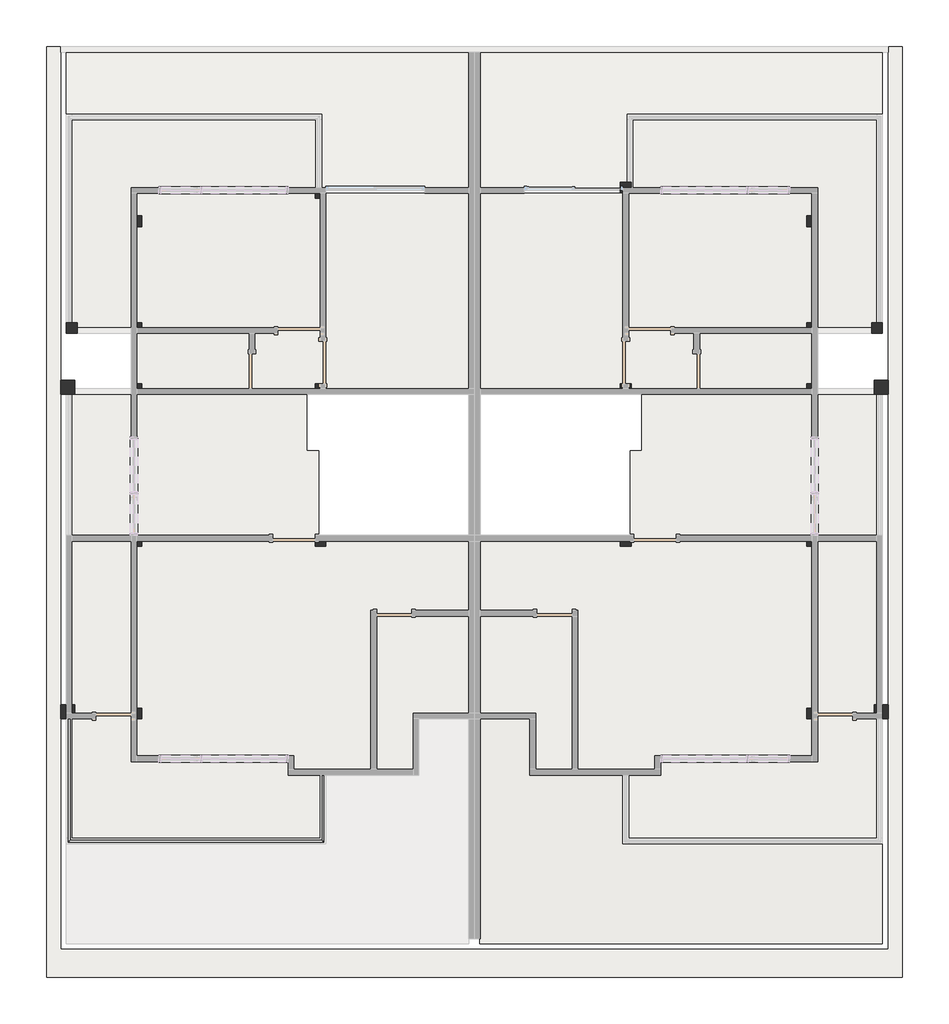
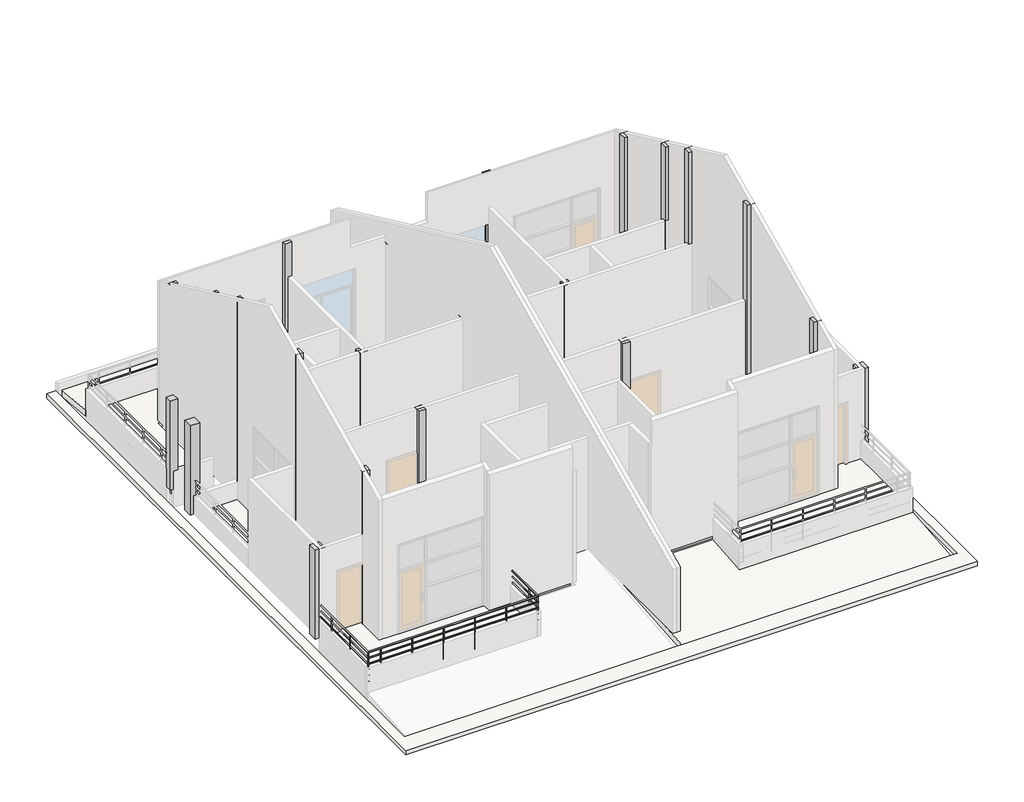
# One storey, part 3 of 6: 26 columns, 5 slabs, 3 roofs, 1 railing.
"""IFC4 building model written with IfcOpenShell, lengths in millimetres."""

from ifc_helpers import new_model, si_unit, point, frame, frame_2d, origin, place, context, project, spatial, polyline, circle_curve, ellipse_curve, trimmed, segment, composite_curve, outline, extrude, faceted_brep, element, save
from ifc_brep_helpers import plane_surface, cylinder_surface, advanced_brep

model = new_model("IFC4")

# Units and contexts
model_context = context("Model", 3, world=origin())
ifc_project = project(units=[si_unit("LENGTHUNIT", "METRE", prefix="MILLI")], contexts=[model_context])

# Site, building, storey
site = spatial("IfcSite", under=ifc_project)
building = spatial("IfcBuilding", under=site)
storey = spatial("IfcBuildingStorey", under=building, Name="标高 2", Elevation=3900.0)

# Columns
placement = place(None, origin())
element("IfcColumn", 1, ObjectType="混凝土 - 矩形 - 柱 : Z1", at=placement, inside=storey, context=model_context, shape_type="SweptSolid", body=[
    extrude(outline(polyline([(-7645.3991115, -28.5593818), (-7645.3991115, -328.5593818), (-7945.3991115, -328.5593818), (-7945.3991115, -28.5593818), (-7645.3991115, -28.5593818)])), frame((0.0, 0.0, 3900.0), z_axis=(0.0, 0.0, 1.0), x_axis=(1.0, 0.0, 0.0)), (0.0, 0.0, 1.0), 3000.0),
])
element("IfcColumn", 2, ObjectType="混凝土 - 矩形 - 柱 : Z1", at=placement, inside=storey, context=model_context, shape_type="SweptSolid", body=[
    extrude(outline(polyline([(-7645.3991115, 6871.4406182), (-7645.3991115, 6571.4406182), (-7945.3991115, 6571.4406182), (-7945.3991115, 6871.4406182), (-7645.3991115, 6871.4406182)])), frame((0.0, 0.0, 3900.0), z_axis=(0.0, 0.0, 1.0), x_axis=(1.0, 0.0, 0.0)), (0.0, 0.0, 1.0), 3000.0),
])
element("IfcColumn", 3, ObjectType="混凝土 - 矩形 - 柱 : Z1", at=placement, inside=storey, context=model_context, shape_type="SweptSolid", body=[
    extrude(outline(polyline([(9354.6008885, -28.5593818), (9654.6008885, -28.5593818), (9654.6008885, -328.5593818), (9354.6008885, -328.5593818), (9354.6008885, -28.5593818)])), frame((0.0, 0.0, 3900.0), z_axis=(0.0, 0.0, 1.0), x_axis=(1.0, 0.0, 0.0)), (0.0, 0.0, 1.0), 3000.0),
])
element("IfcColumn", 4, ObjectType="混凝土 - 矩形 - 柱 : Z1", at=placement, inside=storey, context=model_context, shape_type="SweptSolid", body=[
    extrude(outline(polyline([(9354.6008885, 6871.4406182), (9654.6008885, 6871.4406182), (9654.6008885, 6571.4406182), (9354.6008885, 6571.4406182), (9354.6008885, 6871.4406182)])), frame((0.0, 0.0, 3900.0), z_axis=(0.0, 0.0, 1.0), x_axis=(1.0, 0.0, 0.0)), (0.0, 0.0, 1.0), 3000.0),
])
element("IfcColumn", 5, ObjectType="混凝土 - 矩形 - 柱 : Z2", at=placement, inside=storey, context=model_context, shape_type="SweptSolid", body=[
    extrude(outline(polyline([(-6215.3991115, -98.5593818), (-6215.3991115, -328.5593818), (-6445.3991115, -328.5593818), (-6445.3991115, -98.5593818), (-6215.3991115, -98.5593818)])), frame((0.0, 0.0, 3900.0), z_axis=(0.0, 0.0, 1.0), x_axis=(1.0, 0.0, 0.0)), (0.0, 0.0, 1.0), 5108.8623857),
])
element("IfcColumn", 6, ObjectType="混凝土 - 矩形 - 柱 : Z2", at=placement, inside=storey, context=model_context, shape_type="SweptSolid", body=[
    extrude(outline(polyline([(-6215.3991115, 3571.4406182), (-6215.3991115, 3341.4406182), (-6445.3991115, 3341.4406182), (-6445.3991115, 3571.4406182), (-6215.3991115, 3571.4406182)])), frame((0.0, 0.0, 3900.0), z_axis=(0.0, 0.0, 1.0), x_axis=(1.0, 0.0, 0.0)), (0.0, 0.0, 1.0), 6820.2114911),
])
element("IfcColumn", 7, ObjectType="混凝土 - 矩形 - 柱 : Z2", at=placement, inside=storey, context=model_context, shape_type="SweptSolid", body=[
    extrude(outline(polyline([(-6215.3991115, 8101.4406182), (-6215.3991115, 7871.4406182), (-6445.3991115, 7871.4406182), (-6445.3991115, 8101.4406182), (-6215.3991115, 8101.4406182)])), frame((0.0, 0.0, 3900.0), z_axis=(0.0, 0.0, 1.0), x_axis=(1.0, 0.0, 0.0)), (0.0, 0.0, 1.0), 6027.4884723),
])
element("IfcColumn", 8, ObjectType="混凝土 - 矩形 - 柱 : Z2", at=placement, inside=storey, context=model_context, shape_type="SweptSolid", body=[
    extrude(outline(polyline([(-6215.3991115, 10371.4406182), (-6215.3991115, 10141.4406182), (-6445.3991115, 10141.4406182), (-6445.3991115, 10371.4406182), (-6215.3991115, 10371.4406182)])), frame((0.0, 0.0, 3900.0), z_axis=(0.0, 0.0, 1.0), x_axis=(1.0, 0.0, 0.0)), (0.0, 0.0, 1.0), 4968.9700883),
])
element("IfcColumn", 9, ObjectType="混凝土 - 矩形 - 柱 : Z2", at=placement, inside=storey, context=model_context, shape_type="SweptSolid", body=[
    extrude(outline(polyline([(-2305.3991115, 3571.4406182), (-2305.3991115, 3341.4406182), (-2535.3991115, 3341.4406182), (-2535.3991115, 3571.4406182), (-2305.3991115, 3571.4406182)])), frame((0.0, 0.0, 3900.0), z_axis=(0.0, 0.0, 1.0), x_axis=(1.0, 0.0, 0.0)), (0.0, 0.0, 1.0), 3550.0),
])
element("IfcColumn", 10, ObjectType="混凝土 - 矩形 - 柱 : Z2", at=placement, inside=storey, context=model_context, shape_type="SweptSolid", body=[
    extrude(outline(polyline([(-2305.3991115, 6801.4406182), (-2305.3991115, 6571.4406182), (-2535.3991115, 6571.4406182), (-2535.3991115, 6801.4406182), (-2305.3991115, 6801.4406182)])), frame((0.0, 0.0, 3900.0), z_axis=(0.0, 0.0, 1.0), x_axis=(1.0, 0.0, 0.0)), (0.0, 0.0, 1.0), 3550.0),
])
element("IfcColumn", 11, ObjectType="混凝土 - 矩形 - 柱 : Z2", at=placement, inside=storey, context=model_context, shape_type="SweptSolid", body=[
    extrude(outline(polyline([(-2305.3991115, 10971.4406182), (-2305.3991115, 10741.4406182), (-2535.3991115, 10741.4406182), (-2535.3991115, 10971.4406182), (-2305.3991115, 10971.4406182)])), frame((0.0, 0.0, 3900.0), z_axis=(0.0, 0.0, 1.0), x_axis=(1.0, 0.0, 0.0)), (0.0, 0.0, 1.0), 4689.1854934),
])
element("IfcColumn", 12, ObjectType="混凝土 - 矩形 - 柱 : Z2", at=placement, inside=storey, context=model_context, shape_type="SweptSolid", body=[
    extrude(outline(polyline([(969.6008885, -213.5593818), (969.6008885, -443.5593818), (739.6008885, -443.5593818), (739.6008885, -213.5593818), (969.6008885, -213.5593818)])), frame((0.0, 0.0, 3900.0), z_axis=(0.0, 0.0, 1.0), x_axis=(1.0, 0.0, 0.0)), (0.0, 0.0, 1.0), 3750.0),
])
element("IfcColumn", 13, ObjectType="混凝土 - 矩形 - 柱 : Z2", at=placement, inside=storey, context=model_context, shape_type="SweptSolid", body=[
    extrude(outline(polyline([(969.6008885, 3571.4406182), (969.6008885, 3341.4406182), (739.6008885, 3341.4406182), (739.6008885, 3571.4406182), (969.6008885, 3571.4406182)])), frame((0.0, 0.0, 3900.0), z_axis=(0.0, 0.0, 1.0), x_axis=(1.0, 0.0, 0.0)), (0.0, 0.0, 1.0), 3550.0),
])
element("IfcColumn", 14, ObjectType="混凝土 - 矩形 - 柱 : Z2", at=placement, inside=storey, context=model_context, shape_type="SweptSolid", body=[
    extrude(outline(polyline([(969.6008885, 6801.4406182), (969.6008885, 6571.4406182), (739.6008885, 6571.4406182), (739.6008885, 6801.4406182), (969.6008885, 6801.4406182)])), frame((0.0, 0.0, 3900.0), z_axis=(0.0, 0.0, 1.0), x_axis=(1.0, 0.0, 0.0)), (0.0, 0.0, 1.0), 3550.0),
])
element("IfcColumn", 15, ObjectType="混凝土 - 矩形 - 柱 : Z2", at=placement, inside=storey, context=model_context, shape_type="SweptSolid", body=[
    extrude(outline(polyline([(969.6008885, 10971.4406182), (969.6008885, 10741.4406182), (739.6008885, 10741.4406182), (739.6008885, 10971.4406182), (969.6008885, 10971.4406182)])), frame((0.0, 0.0, 3900.0), z_axis=(0.0, 0.0, 1.0), x_axis=(1.0, 0.0, 0.0)), (0.0, 0.0, 1.0), 3550.0),
])
element("IfcColumn", 16, ObjectType="混凝土 - 矩形 - 柱 : Z2", at=placement, inside=storey, context=model_context, shape_type="SweptSolid", body=[
    extrude(outline(polyline([(7924.6008885, -98.5593818), (8154.6008885, -98.5593818), (8154.6008885, -328.5593818), (7924.6008885, -328.5593818), (7924.6008885, -98.5593818)])), frame((0.0, 0.0, 3900.0), z_axis=(0.0, 0.0, 1.0), x_axis=(1.0, 0.0, 0.0)), (0.0, 0.0, 1.0), 5108.8623857),
])
element("IfcColumn", 17, ObjectType="混凝土 - 矩形 - 柱 : Z2", at=placement, inside=storey, context=model_context, shape_type="SweptSolid", body=[
    extrude(outline(polyline([(7924.6008885, 3571.4406182), (8154.6008885, 3571.4406182), (8154.6008885, 3341.4406182), (7924.6008885, 3341.4406182), (7924.6008885, 3571.4406182)])), frame((0.0, 0.0, 3900.0), z_axis=(0.0, 0.0, 1.0), x_axis=(1.0, 0.0, 0.0)), (0.0, 0.0, 1.0), 6820.2114911),
])
element("IfcColumn", 18, ObjectType="混凝土 - 矩形 - 柱 : Z2", at=placement, inside=storey, context=model_context, shape_type="SweptSolid", body=[
    extrude(outline(polyline([(7924.6008885, 6801.4406182), (8154.6008885, 6801.4406182), (8154.6008885, 6571.4406182), (7924.6008885, 6571.4406182), (7924.6008885, 6801.4406182)])), frame((0.0, 0.0, 3900.0), z_axis=(0.0, 0.0, 1.0), x_axis=(1.0, 0.0, 0.0)), (0.0, 0.0, 1.0), 6633.6884279),
])
element("IfcColumn", 19, ObjectType="混凝土 - 矩形 - 柱 : Z2", at=placement, inside=storey, context=model_context, shape_type="SweptSolid", body=[
    extrude(outline(polyline([(7924.6008885, 10371.4406182), (8154.6008885, 10371.4406182), (8154.6008885, 10141.4406182), (7924.6008885, 10141.4406182), (7924.6008885, 10371.4406182)])), frame((0.0, 0.0, 3900.0), z_axis=(0.0, 0.0, 1.0), x_axis=(1.0, 0.0, 0.0)), (0.0, 0.0, 1.0), 4968.9700883),
])
element("IfcColumn", 20, ObjectType="混凝土 - 矩形 - 柱 : Z2", at=placement, inside=storey, context=model_context, shape_type="SweptSolid", body=[
    extrude(outline(polyline([(3959.6008885, 3571.4406182), (4189.6008885, 3571.4406182), (4189.6008885, 3341.4406182), (3959.6008885, 3341.4406182), (3959.6008885, 3571.4406182)])), frame((0.0, 0.0, 3900.0), z_axis=(0.0, 0.0, 1.0), x_axis=(1.0, 0.0, 0.0)), (0.0, 0.0, 1.0), 3550.0),
])
element("IfcColumn", 21, ObjectType="混凝土 - 矩形 - 柱 : Z2", at=placement, inside=storey, context=model_context, shape_type="SweptSolid", body=[
    extrude(outline(polyline([(3959.6008885, 6801.4406182), (4189.6008885, 6801.4406182), (4189.6008885, 6571.4406182), (3959.6008885, 6571.4406182), (3959.6008885, 6801.4406182)])), frame((0.0, 0.0, 3900.0), z_axis=(0.0, 0.0, 1.0), x_axis=(1.0, 0.0, 0.0)), (0.0, 0.0, 1.0), 3550.0),
])
element("IfcColumn", 22, ObjectType="混凝土 - 矩形 - 柱 : Z2", at=placement, inside=storey, context=model_context, shape_type="SweptSolid", body=[
    extrude(outline(polyline([(3959.6008885, 11086.4406182), (4189.6008885, 11086.4406182), (4189.6008885, 10856.4406182), (3959.6008885, 10856.4406182), (3959.6008885, 11086.4406182)])), frame((0.0, 0.0, 3900.0), z_axis=(0.0, 0.0, 1.0), x_axis=(1.0, 0.0, 0.0)), (0.0, 0.0, 1.0), 4635.5601127),
])
element("IfcColumn", 23, ObjectType="混凝土 - 矩形 - 柱 : Z2", at=placement, inside=storey, context=model_context, shape_type="SweptSolid", body=[
    extrude(outline(polyline([(-7595.3991115, 8101.4406182), (-7595.3991115, 7871.4406182), (-7825.3991115, 7871.4406182), (-7825.3991115, 8101.4406182), (-7595.3991115, 8101.4406182)])), frame((0.0, 0.0, 3900.0), z_axis=(0.0, 0.0, 1.0), x_axis=(1.0, 0.0, 0.0)), (0.0, 0.0, 1.0), 3000.0),
])
element("IfcColumn", 24, ObjectType="混凝土 - 矩形 - 柱 : Z2", at=placement, inside=storey, context=model_context, shape_type="SweptSolid", body=[
    extrude(outline(polyline([(-6215.3991115, 6801.4406182), (-6215.3991115, 6571.4406182), (-6445.3991115, 6571.4406182), (-6445.3991115, 6801.4406182), (-6215.3991115, 6801.4406182)])), frame((0.0, 0.0, 3900.0), z_axis=(0.0, 0.0, 1.0), x_axis=(1.0, 0.0, 0.0)), (0.0, 0.0, 1.0), 6633.6884279),
])
element("IfcColumn", 25, ObjectType="混凝土 - 矩形 - 柱 : Z2", at=placement, inside=storey, context=model_context, shape_type="SweptSolid", body=[
    extrude(outline(polyline([(7924.6008885, 8101.4406182), (8154.6008885, 8101.4406182), (8154.6008885, 7871.4406182), (7924.6008885, 7871.4406182), (7924.6008885, 8101.4406182)])), frame((0.0, 0.0, 3900.0), z_axis=(0.0, 0.0, 1.0), x_axis=(1.0, 0.0, 0.0)), (0.0, 0.0, 1.0), 6027.4884723),
])
element("IfcColumn", 26, ObjectType="混凝土 - 矩形 - 柱 : Z2", at=placement, inside=storey, context=model_context, shape_type="SweptSolid", body=[
    extrude(outline(polyline([(9304.6008885, 8101.4406182), (9534.6008885, 8101.4406182), (9534.6008885, 7871.4406182), (9304.6008885, 7871.4406182), (9304.6008885, 8101.4406182)])), frame((0.0, 0.0, 3900.0), z_axis=(0.0, 0.0, 1.0), x_axis=(1.0, 0.0, 0.0)), (0.0, 0.0, 1.0), 3000.0),
])

# Railing
element("IfcRailing", 27, ObjectType="1100mm 圆管", at=placement, inside=storey, context=model_context, shape_type="SolidModel", body=[
    advanced_brep(
    [(-2385.3991115, -1463.5593818, 4980.0), (-2345.3991115, -1463.5593818, 4980.0), (-2385.3991115, -2908.5593818, 4980.0), (-2345.3991115, -2948.5593818, 4980.0), (-7745.3991115, -2908.5593818, 4980.0), (-7785.3991115, -2948.5593818, 4980.0), (-7745.3991115, -268.5593818, 4980.0), (-7785.3991115, -268.5593818, 4980.0)],
    [
        (0, 1, circle_curve(frame((-2365.3991115, -1463.5593818, 4980.0), z_axis=(0.0, 1.0, 0.0), x_axis=(1.0, 0.0, 0.0)), 20.0)),
        (1, 0, circle_curve(frame((-2365.3991115, -1463.5593818, 4980.0), z_axis=(0.0, 1.0, 0.0), x_axis=(1.0, 0.0, 0.0)), 20.0)),
        (0, 2),
        (2, 3, ellipse_curve(frame((-2365.3991115, -2928.5593818, 4980.0), z_axis=(0.7071067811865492, 0.7071067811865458, 0.0), x_axis=(-0.7071067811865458, 0.7071067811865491, 0.0)), 28.2842712, 20.0)),
        (3, 1),
        (3, 2, ellipse_curve(frame((-2365.3991115, -2928.5593818, 4980.0), z_axis=(0.7071067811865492, 0.7071067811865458, 0.0), x_axis=(-0.7071067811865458, 0.7071067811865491, 0.0)), 28.2842712, 20.0)),
        (2, 4),
        (4, 5, ellipse_curve(frame((-7765.3991115, -2928.5593818, 4980.0), z_axis=(0.7071067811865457, -0.7071067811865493, 0.0), x_axis=(0.7071067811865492, 0.7071067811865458, 0.0)), 28.2842712, 20.0)),
        (5, 3),
        (5, 4, ellipse_curve(frame((-7765.3991115, -2928.5593818, 4980.0), z_axis=(0.7071067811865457, -0.7071067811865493, 0.0), x_axis=(0.7071067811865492, 0.7071067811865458, 0.0)), 28.2842712, 20.0)),
        (6, 7, circle_curve(frame((-7765.3991115, -268.5593818, 4980.0), z_axis=(0.0, 1.0, 0.0), x_axis=(-1.0, 0.0, 0.0)), 20.0)),
        (7, 6, circle_curve(frame((-7765.3991115, -268.5593818, 4980.0), z_axis=(0.0, 1.0, 0.0), x_axis=(-1.0, 0.0, 0.0)), 20.0)),
        (4, 6),
        (7, 5),
    ],
    [
        plane_surface(frame((-2365.3991115, -1463.5593818, 5000.0), z_axis=(0.0, 1.0, 0.0), x_axis=(0.0, 0.0, -1.0))),
        cylinder_surface(frame((-2365.3991115, -1463.5593818, 4980.0), z_axis=(0.0, 1.0, 0.0), x_axis=(1.0, 0.0, 0.0)), 20.0),
        cylinder_surface(frame((-2365.3991115, -2928.5593818, 4980.0), z_axis=(1.0, 0.0, 0.0), x_axis=(0.0, -1.0, 0.0)), 20.0),
        plane_surface(frame((-7765.3991115, -268.5593818, 5000.0), z_axis=(0.0, 1.0, 0.0), x_axis=(0.0, 0.0, 1.0))),
        cylinder_surface(frame((-7765.3991115, -2928.5593818, 4980.0), z_axis=(0.0, -1.0, 0.0), x_axis=(-1.0, 0.0, 0.0)), 20.0),
    ],
    [
        (0, [[1, 2]]),
        (1, [[-1, 3, 4, 5]]),
        (1, [[-2, -5, 6, -3]]),
        (2, [[-4, 7, 8, 9]]),
        (2, [[-6, -9, 10, -7]]),
        (3, [[11, 12]]),
        (4, [[-8, 13, -12, 14]]),
        (4, [[-10, -14, -11, -13]]),
    ],
),
    advanced_brep(
    [(-2350.3991115, -1463.5593818, 4785.0), (-2380.3991115, -1463.5593818, 4785.0), (-2350.3991115, -2943.5593818, 4785.0), (-2380.3991115, -2913.5593818, 4785.0), (-7780.3991115, -2943.5593818, 4785.0), (-7750.3991115, -2913.5593818, 4785.0), (-7780.3991115, -268.5593818, 4785.0), (-7750.3991115, -268.5593818, 4785.0)],
    [
        (0, 1, circle_curve(frame((-2365.3991115, -1463.5593818, 4785.0), z_axis=(0.0, 1.0, 0.0), x_axis=(-1.0, 0.0, 0.0)), 15.0)),
        (1, 0, circle_curve(frame((-2365.3991115, -1463.5593818, 4785.0), z_axis=(0.0, 1.0, 0.0), x_axis=(-1.0, 0.0, 0.0)), 15.0)),
        (0, 2),
        (2, 3, ellipse_curve(frame((-2365.3991115, -2928.5593818, 4785.0), z_axis=(0.7071067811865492, 0.7071067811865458, 0.0), x_axis=(-0.7071067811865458, 0.7071067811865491, 0.0)), 21.2132034, 15.0)),
        (3, 1),
        (3, 2, ellipse_curve(frame((-2365.3991115, -2928.5593818, 4785.0), z_axis=(0.7071067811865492, 0.7071067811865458, 0.0), x_axis=(-0.7071067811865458, 0.7071067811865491, 0.0)), 21.2132034, 15.0)),
        (2, 4),
        (4, 5, ellipse_curve(frame((-7765.3991115, -2928.5593818, 4785.0), z_axis=(0.7071067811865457, -0.7071067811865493, 0.0), x_axis=(0.7071067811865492, 0.7071067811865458, 0.0)), 21.2132034, 15.0)),
        (5, 3),
        (5, 4, ellipse_curve(frame((-7765.3991115, -2928.5593818, 4785.0), z_axis=(0.7071067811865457, -0.7071067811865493, 0.0), x_axis=(0.7071067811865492, 0.7071067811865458, 0.0)), 21.2132034, 15.0)),
        (6, 7, circle_curve(frame((-7765.3991115, -268.5593818, 4785.0), z_axis=(0.0, 1.0, 0.0), x_axis=(1.0, 0.0, 0.0)), 15.0)),
        (7, 6, circle_curve(frame((-7765.3991115, -268.5593818, 4785.0), z_axis=(0.0, 1.0, 0.0), x_axis=(1.0, 0.0, 0.0)), 15.0)),
        (4, 6),
        (7, 5),
    ],
    [
        plane_surface(frame((-2365.3991115, -1463.5593818, 4800.0), z_axis=(0.0, 1.0, 0.0), x_axis=(0.0, 0.0, -1.0))),
        cylinder_surface(frame((-2365.3991115, -1463.5593818, 4785.0), z_axis=(0.0, 1.0, 0.0), x_axis=(-1.0, 0.0, 0.0)), 15.0),
        cylinder_surface(frame((-2365.3991115, -2928.5593818, 4785.0), z_axis=(1.0, 0.0, 0.0), x_axis=(0.0, 1.0, 0.0)), 15.0),
        plane_surface(frame((-7765.3991115, -268.5593818, 4800.0), z_axis=(0.0, 1.0, 0.0), x_axis=(0.0, 0.0, 1.0))),
        cylinder_surface(frame((-7765.3991115, -2928.5593818, 4785.0), z_axis=(0.0, -1.0, 0.0), x_axis=(1.0, 0.0, 0.0)), 15.0),
    ],
    [
        (0, [[1, 2]]),
        (1, [[-1, 3, 4, 5]]),
        (1, [[-2, -5, 6, -3]]),
        (2, [[-4, 7, 8, 9]]),
        (2, [[-6, -9, 10, -7]]),
        (3, [[11, 12]]),
        (4, [[-8, 13, -12, 14]]),
        (4, [[-10, -14, -11, -13]]),
    ],
),
    advanced_brep(
    [(-2350.3991115, -1463.5593818, 4585.0), (-2380.3991115, -1463.5593818, 4585.0), (-2350.3991115, -2943.5593818, 4585.0), (-2380.3991115, -2913.5593818, 4585.0), (-7780.3991115, -2943.5593818, 4585.0), (-7750.3991115, -2913.5593818, 4585.0), (-7780.3991115, -268.5593818, 4585.0), (-7750.3991115, -268.5593818, 4585.0)],
    [
        (0, 1, circle_curve(frame((-2365.3991115, -1463.5593818, 4585.0), z_axis=(0.0, 1.0, 0.0), x_axis=(-1.0, 0.0, 0.0)), 15.0)),
        (1, 0, circle_curve(frame((-2365.3991115, -1463.5593818, 4585.0), z_axis=(0.0, 1.0, 0.0), x_axis=(-1.0, 0.0, 0.0)), 15.0)),
        (0, 2),
        (2, 3, ellipse_curve(frame((-2365.3991115, -2928.5593818, 4585.0), z_axis=(0.7071067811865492, 0.7071067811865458, 0.0), x_axis=(-0.7071067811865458, 0.7071067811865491, 0.0)), 21.2132034, 15.0)),
        (3, 1),
        (3, 2, ellipse_curve(frame((-2365.3991115, -2928.5593818, 4585.0), z_axis=(0.7071067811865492, 0.7071067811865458, 0.0), x_axis=(-0.7071067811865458, 0.7071067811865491, 0.0)), 21.2132034, 15.0)),
        (2, 4),
        (4, 5, ellipse_curve(frame((-7765.3991115, -2928.5593818, 4585.0), z_axis=(0.7071067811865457, -0.7071067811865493, 0.0), x_axis=(0.7071067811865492, 0.7071067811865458, 0.0)), 21.2132034, 15.0)),
        (5, 3),
        (5, 4, ellipse_curve(frame((-7765.3991115, -2928.5593818, 4585.0), z_axis=(0.7071067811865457, -0.7071067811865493, 0.0), x_axis=(0.7071067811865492, 0.7071067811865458, 0.0)), 21.2132034, 15.0)),
        (6, 7, circle_curve(frame((-7765.3991115, -268.5593818, 4585.0), z_axis=(0.0, 1.0, 0.0), x_axis=(1.0, 0.0, 0.0)), 15.0)),
        (7, 6, circle_curve(frame((-7765.3991115, -268.5593818, 4585.0), z_axis=(0.0, 1.0, 0.0), x_axis=(1.0, 0.0, 0.0)), 15.0)),
        (4, 6),
        (7, 5),
    ],
    [
        plane_surface(frame((-2365.3991115, -1463.5593818, 4600.0), z_axis=(0.0, 1.0, 0.0), x_axis=(0.0, 0.0, -1.0))),
        cylinder_surface(frame((-2365.3991115, -1463.5593818, 4585.0), z_axis=(0.0, 1.0, 0.0), x_axis=(-1.0, 0.0, 0.0)), 15.0),
        cylinder_surface(frame((-2365.3991115, -2928.5593818, 4585.0), z_axis=(1.0, 0.0, 0.0), x_axis=(0.0, 1.0, 0.0)), 15.0),
        plane_surface(frame((-7765.3991115, -268.5593818, 4600.0), z_axis=(0.0, 1.0, 0.0), x_axis=(0.0, 0.0, 1.0))),
        cylinder_surface(frame((-7765.3991115, -2928.5593818, 4585.0), z_axis=(0.0, -1.0, 0.0), x_axis=(1.0, 0.0, 0.0)), 15.0),
    ],
    [
        (0, [[1, 2]]),
        (1, [[-1, 3, 4, 5]]),
        (1, [[-2, -5, 6, -3]]),
        (2, [[-4, 7, 8, 9]]),
        (2, [[-6, -9, 10, -7]]),
        (3, [[11, 12]]),
        (4, [[-8, 13, -12, 14]]),
        (4, [[-10, -14, -11, -13]]),
    ],
),
    advanced_brep(
    [(-2350.3991115, -1463.5593818, 4385.0), (-2380.3991115, -1463.5593818, 4385.0), (-2350.3991115, -2943.5593818, 4385.0), (-2380.3991115, -2913.5593818, 4385.0), (-7780.3991115, -2943.5593818, 4385.0), (-7750.3991115, -2913.5593818, 4385.0), (-7780.3991115, -268.5593818, 4385.0), (-7750.3991115, -268.5593818, 4385.0)],
    [
        (0, 1, circle_curve(frame((-2365.3991115, -1463.5593818, 4385.0), z_axis=(0.0, 1.0, 0.0), x_axis=(-1.0, 0.0, 0.0)), 15.0)),
        (1, 0, circle_curve(frame((-2365.3991115, -1463.5593818, 4385.0), z_axis=(0.0, 1.0, 0.0), x_axis=(-1.0, 0.0, 0.0)), 15.0)),
        (0, 2),
        (2, 3, ellipse_curve(frame((-2365.3991115, -2928.5593818, 4385.0), z_axis=(0.7071067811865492, 0.7071067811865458, 0.0), x_axis=(-0.7071067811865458, 0.7071067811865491, 0.0)), 21.2132034, 15.0)),
        (3, 1),
        (3, 2, ellipse_curve(frame((-2365.3991115, -2928.5593818, 4385.0), z_axis=(0.7071067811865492, 0.7071067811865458, 0.0), x_axis=(-0.7071067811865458, 0.7071067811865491, 0.0)), 21.2132034, 15.0)),
        (2, 4),
        (4, 5, ellipse_curve(frame((-7765.3991115, -2928.5593818, 4385.0), z_axis=(0.7071067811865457, -0.7071067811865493, 0.0), x_axis=(0.7071067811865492, 0.7071067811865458, 0.0)), 21.2132034, 15.0)),
        (5, 3),
        (5, 4, ellipse_curve(frame((-7765.3991115, -2928.5593818, 4385.0), z_axis=(0.7071067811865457, -0.7071067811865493, 0.0), x_axis=(0.7071067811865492, 0.7071067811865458, 0.0)), 21.2132034, 15.0)),
        (6, 7, circle_curve(frame((-7765.3991115, -268.5593818, 4385.0), z_axis=(0.0, 1.0, 0.0), x_axis=(1.0, 0.0, 0.0)), 15.0)),
        (7, 6, circle_curve(frame((-7765.3991115, -268.5593818, 4385.0), z_axis=(0.0, 1.0, 0.0), x_axis=(1.0, 0.0, 0.0)), 15.0)),
        (4, 6),
        (7, 5),
    ],
    [
        plane_surface(frame((-2365.3991115, -1463.5593818, 4400.0), z_axis=(0.0, 1.0, 0.0), x_axis=(0.0, 0.0, -1.0))),
        cylinder_surface(frame((-2365.3991115, -1463.5593818, 4385.0), z_axis=(0.0, 1.0, 0.0), x_axis=(-1.0, 0.0, 0.0)), 15.0),
        cylinder_surface(frame((-2365.3991115, -2928.5593818, 4385.0), z_axis=(1.0, 0.0, 0.0), x_axis=(0.0, 1.0, 0.0)), 15.0),
        plane_surface(frame((-7765.3991115, -268.5593818, 4400.0), z_axis=(0.0, 1.0, 0.0), x_axis=(0.0, 0.0, 1.0))),
        cylinder_surface(frame((-7765.3991115, -2928.5593818, 4385.0), z_axis=(0.0, -1.0, 0.0), x_axis=(1.0, 0.0, 0.0)), 15.0),
    ],
    [
        (0, [[1, 2]]),
        (1, [[-1, 3, 4, 5]]),
        (1, [[-2, -5, 6, -3]]),
        (2, [[-4, 7, 8, 9]]),
        (2, [[-6, -9, 10, -7]]),
        (3, [[11, 12]]),
        (4, [[-8, 13, -12, 14]]),
        (4, [[-10, -14, -11, -13]]),
    ],
),
    advanced_brep(
    [(-2350.3991115, -1463.5593818, 4185.0), (-2380.3991115, -1463.5593818, 4185.0), (-2350.3991115, -2943.5593818, 4185.0), (-2380.3991115, -2913.5593818, 4185.0), (-7780.3991115, -2943.5593818, 4185.0), (-7750.3991115, -2913.5593818, 4185.0), (-7780.3991115, -268.5593818, 4185.0), (-7750.3991115, -268.5593818, 4185.0)],
    [
        (0, 1, circle_curve(frame((-2365.3991115, -1463.5593818, 4185.0), z_axis=(0.0, 1.0, 0.0), x_axis=(-1.0, 0.0, 0.0)), 15.0)),
        (1, 0, circle_curve(frame((-2365.3991115, -1463.5593818, 4185.0), z_axis=(0.0, 1.0, 0.0), x_axis=(-1.0, 0.0, 0.0)), 15.0)),
        (0, 2),
        (2, 3, ellipse_curve(frame((-2365.3991115, -2928.5593818, 4185.0), z_axis=(0.7071067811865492, 0.7071067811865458, 0.0), x_axis=(-0.7071067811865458, 0.7071067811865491, 0.0)), 21.2132034, 15.0)),
        (3, 1),
        (3, 2, ellipse_curve(frame((-2365.3991115, -2928.5593818, 4185.0), z_axis=(0.7071067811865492, 0.7071067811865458, 0.0), x_axis=(-0.7071067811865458, 0.7071067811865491, 0.0)), 21.2132034, 15.0)),
        (2, 4),
        (4, 5, ellipse_curve(frame((-7765.3991115, -2928.5593818, 4185.0), z_axis=(0.7071067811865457, -0.7071067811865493, 0.0), x_axis=(0.7071067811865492, 0.7071067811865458, 0.0)), 21.2132034, 15.0)),
        (5, 3),
        (5, 4, ellipse_curve(frame((-7765.3991115, -2928.5593818, 4185.0), z_axis=(0.7071067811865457, -0.7071067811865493, 0.0), x_axis=(0.7071067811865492, 0.7071067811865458, 0.0)), 21.2132034, 15.0)),
        (6, 7, circle_curve(frame((-7765.3991115, -268.5593818, 4185.0), z_axis=(0.0, 1.0, 0.0), x_axis=(1.0, 0.0, 0.0)), 15.0)),
        (7, 6, circle_curve(frame((-7765.3991115, -268.5593818, 4185.0), z_axis=(0.0, 1.0, 0.0), x_axis=(1.0, 0.0, 0.0)), 15.0)),
        (4, 6),
        (7, 5),
    ],
    [
        plane_surface(frame((-2365.3991115, -1463.5593818, 4200.0), z_axis=(0.0, 1.0, 0.0), x_axis=(0.0, 0.0, -1.0))),
        cylinder_surface(frame((-2365.3991115, -1463.5593818, 4185.0), z_axis=(0.0, 1.0, 0.0), x_axis=(-1.0, 0.0, 0.0)), 15.0),
        cylinder_surface(frame((-2365.3991115, -2928.5593818, 4185.0), z_axis=(1.0, 0.0, 0.0), x_axis=(0.0, 1.0, 0.0)), 15.0),
        plane_surface(frame((-7765.3991115, -268.5593818, 4200.0), z_axis=(0.0, 1.0, 0.0), x_axis=(0.0, 0.0, 1.0))),
        cylinder_surface(frame((-7765.3991115, -2928.5593818, 4185.0), z_axis=(0.0, -1.0, 0.0), x_axis=(1.0, 0.0, 0.0)), 15.0),
    ],
    [
        (0, [[1, 2]]),
        (1, [[-1, 3, 4, 5]]),
        (1, [[-2, -5, 6, -3]]),
        (2, [[-4, 7, 8, 9]]),
        (2, [[-6, -9, 10, -7]]),
        (3, [[11, 12]]),
        (4, [[-8, 13, -12, 14]]),
        (4, [[-10, -14, -11, -13]]),
    ],
),
    advanced_brep(
    [(-2350.3991115, -1463.5593818, 3985.0), (-2380.3991115, -1463.5593818, 3985.0), (-2350.3991115, -2943.5593818, 3985.0), (-2380.3991115, -2913.5593818, 3985.0), (-7780.3991115, -2943.5593818, 3985.0), (-7750.3991115, -2913.5593818, 3985.0), (-7780.3991115, -268.5593818, 3985.0), (-7750.3991115, -268.5593818, 3985.0)],
    [
        (0, 1, circle_curve(frame((-2365.3991115, -1463.5593818, 3985.0), z_axis=(0.0, 1.0, 0.0), x_axis=(-1.0, 0.0, 0.0)), 15.0)),
        (1, 0, circle_curve(frame((-2365.3991115, -1463.5593818, 3985.0), z_axis=(0.0, 1.0, 0.0), x_axis=(-1.0, 0.0, 0.0)), 15.0)),
        (0, 2),
        (2, 3, ellipse_curve(frame((-2365.3991115, -2928.5593818, 3985.0), z_axis=(0.7071067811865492, 0.7071067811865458, 0.0), x_axis=(-0.7071067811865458, 0.7071067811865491, 0.0)), 21.2132034, 15.0)),
        (3, 1),
        (3, 2, ellipse_curve(frame((-2365.3991115, -2928.5593818, 3985.0), z_axis=(0.7071067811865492, 0.7071067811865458, 0.0), x_axis=(-0.7071067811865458, 0.7071067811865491, 0.0)), 21.2132034, 15.0)),
        (2, 4),
        (4, 5, ellipse_curve(frame((-7765.3991115, -2928.5593818, 3985.0), z_axis=(0.7071067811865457, -0.7071067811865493, 0.0), x_axis=(0.7071067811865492, 0.7071067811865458, 0.0)), 21.2132034, 15.0)),
        (5, 3),
        (5, 4, ellipse_curve(frame((-7765.3991115, -2928.5593818, 3985.0), z_axis=(0.7071067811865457, -0.7071067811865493, 0.0), x_axis=(0.7071067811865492, 0.7071067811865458, 0.0)), 21.2132034, 15.0)),
        (6, 7, circle_curve(frame((-7765.3991115, -268.5593818, 3985.0), z_axis=(0.0, 1.0, 0.0), x_axis=(1.0, 0.0, 0.0)), 15.0)),
        (7, 6, circle_curve(frame((-7765.3991115, -268.5593818, 3985.0), z_axis=(0.0, 1.0, 0.0), x_axis=(1.0, 0.0, 0.0)), 15.0)),
        (4, 6),
        (7, 5),
    ],
    [
        plane_surface(frame((-2365.3991115, -1463.5593818, 4000.0), z_axis=(0.0, 1.0, 0.0), x_axis=(0.0, 0.0, -1.0))),
        cylinder_surface(frame((-2365.3991115, -1463.5593818, 3985.0), z_axis=(0.0, 1.0, 0.0), x_axis=(-1.0, 0.0, 0.0)), 15.0),
        cylinder_surface(frame((-2365.3991115, -2928.5593818, 3985.0), z_axis=(1.0, 0.0, 0.0), x_axis=(0.0, 1.0, 0.0)), 15.0),
        plane_surface(frame((-7765.3991115, -268.5593818, 4000.0), z_axis=(0.0, 1.0, 0.0), x_axis=(0.0, 0.0, 1.0))),
        cylinder_surface(frame((-7765.3991115, -2928.5593818, 3985.0), z_axis=(0.0, -1.0, 0.0), x_axis=(1.0, 0.0, 0.0)), 15.0),
    ],
    [
        (0, [[1, 2]]),
        (1, [[-1, 3, 4, 5]]),
        (1, [[-2, -5, 6, -3]]),
        (2, [[-4, 7, 8, 9]]),
        (2, [[-6, -9, 10, -7]]),
        (3, [[11, 12]]),
        (4, [[-8, 13, -12, 14]]),
        (4, [[-10, -14, -11, -13]]),
    ],
),
    extrude(outline(composite_curve([segment(trimmed(circle_curve(frame_2d((-7765.3991115, -928.5593818)), 12.5), [point((-7777.8991115, -928.5593818))], [point((-7752.8991115, -928.5593818))], False, "CARTESIAN"), True, "CONTINUOUS"), segment(trimmed(circle_curve(frame_2d((-7765.3991115, -928.5593818)), 12.5), [point((-7752.8991115, -928.5593818))], [point((-7777.8991115, -928.5593818))], False, "CARTESIAN"), True, "CONTINUOUS")], self_intersect=False)), frame((0.0, 0.0, 3900.0), z_axis=(0.0, 0.0, 1.0), x_axis=(1.0, 0.0, 0.0)), (0.0, 0.0, 1.0), 1060.0),
    extrude(outline(composite_curve([segment(trimmed(circle_curve(frame_2d((-7765.3991115, -1928.5593818)), 12.5), [point((-7777.8991115, -1928.5593818))], [point((-7752.8991115, -1928.5593818))], False, "CARTESIAN"), True, "CONTINUOUS"), segment(trimmed(circle_curve(frame_2d((-7765.3991115, -1928.5593818)), 12.5), [point((-7752.8991115, -1928.5593818))], [point((-7777.8991115, -1928.5593818))], False, "CARTESIAN"), True, "CONTINUOUS")], self_intersect=False)), frame((0.0, 0.0, 3900.0), z_axis=(0.0, 0.0, 1.0), x_axis=(1.0, 0.0, 0.0)), (0.0, 0.0, 1.0), 1060.0),
    extrude(outline(composite_curve([segment(trimmed(circle_curve(frame_2d((-7365.3991115, -2928.5593818)), 12.5), [point((-7365.3991115, -2941.0593818))], [point((-7365.3991115, -2916.0593818))], False, "CARTESIAN"), True, "CONTINUOUS"), segment(trimmed(circle_curve(frame_2d((-7365.3991115, -2928.5593818)), 12.5), [point((-7365.3991115, -2916.0593818))], [point((-7365.3991115, -2941.0593818))], False, "CARTESIAN"), True, "CONTINUOUS")], self_intersect=False)), frame((0.0, 0.0, 3900.0), z_axis=(0.0, 0.0, 1.0), x_axis=(1.0, 0.0, 0.0)), (0.0, 0.0, 1.0), 1060.0),
    extrude(outline(composite_curve([segment(trimmed(circle_curve(frame_2d((-6365.3991115, -2928.5593818)), 12.5), [point((-6365.3991115, -2941.0593818))], [point((-6365.3991115, -2916.0593818))], False, "CARTESIAN"), True, "CONTINUOUS"), segment(trimmed(circle_curve(frame_2d((-6365.3991115, -2928.5593818)), 12.5), [point((-6365.3991115, -2916.0593818))], [point((-6365.3991115, -2941.0593818))], False, "CARTESIAN"), True, "CONTINUOUS")], self_intersect=False)), frame((0.0, 0.0, 3900.0), z_axis=(0.0, 0.0, 1.0), x_axis=(1.0, 0.0, 0.0)), (0.0, 0.0, 1.0), 1060.0),
    extrude(outline(composite_curve([segment(trimmed(circle_curve(frame_2d((-5365.3991115, -2928.5593818)), 12.5), [point((-5365.3991115, -2941.0593818))], [point((-5365.3991115, -2916.0593818))], False, "CARTESIAN"), True, "CONTINUOUS"), segment(trimmed(circle_curve(frame_2d((-5365.3991115, -2928.5593818)), 12.5), [point((-5365.3991115, -2916.0593818))], [point((-5365.3991115, -2941.0593818))], False, "CARTESIAN"), True, "CONTINUOUS")], self_intersect=False)), frame((0.0, 0.0, 3900.0), z_axis=(0.0, 0.0, 1.0), x_axis=(1.0, 0.0, 0.0)), (0.0, 0.0, 1.0), 1060.0),
    extrude(outline(composite_curve([segment(trimmed(circle_curve(frame_2d((-4365.3991115, -2928.5593818)), 12.5), [point((-4365.3991115, -2941.0593818))], [point((-4365.3991115, -2916.0593818))], False, "CARTESIAN"), True, "CONTINUOUS"), segment(trimmed(circle_curve(frame_2d((-4365.3991115, -2928.5593818)), 12.5), [point((-4365.3991115, -2916.0593818))], [point((-4365.3991115, -2941.0593818))], False, "CARTESIAN"), True, "CONTINUOUS")], self_intersect=False)), frame((0.0, 0.0, 3900.0), z_axis=(0.0, 0.0, 1.0), x_axis=(1.0, 0.0, 0.0)), (0.0, 0.0, 1.0), 1060.0),
    extrude(outline(composite_curve([segment(trimmed(circle_curve(frame_2d((-3365.3991115, -2928.5593818)), 12.5), [point((-3365.3991115, -2941.0593818))], [point((-3365.3991115, -2916.0593818))], False, "CARTESIAN"), True, "CONTINUOUS"), segment(trimmed(circle_curve(frame_2d((-3365.3991115, -2928.5593818)), 12.5), [point((-3365.3991115, -2916.0593818))], [point((-3365.3991115, -2941.0593818))], False, "CARTESIAN"), True, "CONTINUOUS")], self_intersect=False)), frame((0.0, 0.0, 3900.0), z_axis=(0.0, 0.0, 1.0), x_axis=(1.0, 0.0, 0.0)), (0.0, 0.0, 1.0), 1060.0),
    extrude(outline(composite_curve([segment(trimmed(circle_curve(frame_2d((-2365.3991115, -2463.5593818)), 12.5), [point((-2352.8991115, -2463.5593818))], [point((-2377.8991115, -2463.5593818))], False, "CARTESIAN"), True, "CONTINUOUS"), segment(trimmed(circle_curve(frame_2d((-2365.3991115, -2463.5593818)), 12.5), [point((-2377.8991115, -2463.5593818))], [point((-2352.8991115, -2463.5593818))], False, "CARTESIAN"), True, "CONTINUOUS")], self_intersect=False)), frame((0.0, 0.0, 3900.0), z_axis=(0.0, 0.0, 1.0), x_axis=(1.0, 0.0, 0.0)), (0.0, 0.0, 1.0), 1060.0),
    extrude(outline(composite_curve([segment(trimmed(circle_curve(frame_2d((-7765.3991115, -2928.5593818)), 12.5), [point((-7765.3991115, -2941.0593818))], [point((-7765.3991115, -2916.0593818))], False, "CARTESIAN"), True, "CONTINUOUS"), segment(trimmed(circle_curve(frame_2d((-7765.3991115, -2928.5593818)), 12.5), [point((-7765.3991115, -2916.0593818))], [point((-7765.3991115, -2941.0593818))], False, "CARTESIAN"), True, "CONTINUOUS")], self_intersect=False)), frame((0.0, 0.0, 3900.0), z_axis=(0.0, 0.0, 1.0), x_axis=(1.0, 0.0, 0.0)), (0.0, 0.0, 1.0), 1060.0),
    extrude(outline(composite_curve([segment(trimmed(circle_curve(frame_2d((-2365.3991115, -2928.5593818)), 12.5), [point((-2352.8991115, -2928.5593818))], [point((-2377.8991115, -2928.5593818))], False, "CARTESIAN"), True, "CONTINUOUS"), segment(trimmed(circle_curve(frame_2d((-2365.3991115, -2928.5593818)), 12.5), [point((-2377.8991115, -2928.5593818))], [point((-2352.8991115, -2928.5593818))], False, "CARTESIAN"), True, "CONTINUOUS")], self_intersect=False)), frame((0.0, 0.0, 3900.0), z_axis=(0.0, 0.0, 1.0), x_axis=(1.0, 0.0, 0.0)), (0.0, 0.0, 1.0), 1060.0),
    extrude(outline(composite_curve([segment(trimmed(circle_curve(frame_2d((-7765.3991115, -281.0593818)), 12.5), [point((-7777.8991115, -281.0593818))], [point((-7752.8991115, -281.0593818))], False, "CARTESIAN"), True, "CONTINUOUS"), segment(trimmed(circle_curve(frame_2d((-7765.3991115, -281.0593818)), 12.5), [point((-7752.8991115, -281.0593818))], [point((-7777.8991115, -281.0593818))], False, "CARTESIAN"), True, "CONTINUOUS")], self_intersect=False)), frame((0.0, 0.0, 3900.0), z_axis=(0.0, 0.0, 1.0), x_axis=(1.0, 0.0, 0.0)), (0.0, 0.0, 1.0), 1060.0),
    extrude(outline(composite_curve([segment(trimmed(circle_curve(frame_2d((-2365.3991115, -1476.0593818)), 12.5), [point((-2352.8991115, -1476.0593818))], [point((-2377.8991115, -1476.0593818))], False, "CARTESIAN"), True, "CONTINUOUS"), segment(trimmed(circle_curve(frame_2d((-2365.3991115, -1476.0593818)), 12.5), [point((-2377.8991115, -1476.0593818))], [point((-2352.8991115, -1476.0593818))], False, "CARTESIAN"), True, "CONTINUOUS")], self_intersect=False)), frame((0.0, 0.0, 3900.0), z_axis=(0.0, 0.0, 1.0), x_axis=(1.0, 0.0, 0.0)), (0.0, 0.0, 1.0), 1060.0),
])

# Roofs
element("IfcRoof", 28, ObjectType="平屋顶200", at=placement, inside=storey, context=model_context, shape_type="Brep", body=[
    faceted_brep([(969.6008885, -5108.5593818, 3281.0402208), (969.6008885, -328.5593818, 3699.2360325), (2034.6008885, -328.5593818, 3699.2360325), (2034.6008885, -1523.5593818, 3594.6870796), (4014.6008885, -1523.5593818, 3594.6870796), (4014.6008885, -2988.5593818, 3466.5161875), (9534.6008885, -2988.5593818, 3466.5161875), (9534.6008885, -5108.5593818, 3281.0402208), (969.6008885, -328.5593818, 3900.0), (969.6008885, -5108.5593818, 3481.8041883), (9534.6008885, -5108.5593818, 3481.8041883), (9534.6008885, -2988.5593818, 3667.280155), (4014.6008885, -2988.5593818, 3667.280155), (4014.6008885, -1523.5593818, 3795.4510471), (2034.6008885, -1523.5593818, 3795.4510471), (2034.6008885, -328.5593818, 3900.0)], [[[0, 1, 2, 3, 4, 5, 6, 7]], [[8, 9, 10, 11, 12, 13, 14, 15]], [[1, 8, 15, 2]], [[1, 0, 9, 8]], [[0, 7, 10, 9]], [[10, 7, 6, 11]], [[5, 12, 11, 6]], [[12, 5, 4, 13]], [[13, 4, 3, 14]], [[14, 3, 2, 15]]]),
])
element("IfcRoof", 29, ObjectType="平屋顶200", at=placement, inside=storey, context=model_context, shape_type="Brep", body=[
    faceted_brep([(-7825.3991115, 13851.4406182, 3448.032649), (734.6008885, 13851.4406182, 3448.032649), (734.6008885, 10971.4406182, 3700.0), (-2395.3991115, 10971.4406182, 3700.0), (-2395.3991115, 12531.4406182, 3563.5176849), (-7825.3991115, 12531.4406182, 3563.5176849), (734.6008885, 13851.4406182, 3648.7966166), (-7825.3991115, 13851.4406182, 3648.7966166), (-7825.3991115, 12531.4406182, 3764.2816524), (-2395.3991115, 12531.4406182, 3764.2816524), (-2395.3991115, 10971.4406182, 3900.7639675), (734.6008885, 10971.4406182, 3900.7639675)], [[[0, 1, 2, 3, 4, 5]], [[6, 7, 8, 9, 10, 11]], [[2, 11, 10, 3]], [[7, 0, 5, 8]], [[2, 1, 6, 11]], [[1, 0, 7, 6]], [[9, 4, 3, 10]], [[4, 9, 8, 5]]]),
])
element("IfcRoof", 30, ObjectType="平屋顶200", at=placement, inside=storey, context=model_context, shape_type="Brep", body=[
    faceted_brep([(974.6008885, 13851.4406182, 3648.032649), (9534.6008885, 13851.4406182, 3648.032649), (9534.6008885, 12531.4406182, 3763.5176849), (4104.6008885, 12531.4406182, 3763.5176849), (4104.6008885, 10971.4406182, 3900.0), (974.6008885, 10971.4406182, 3900.0), (9534.6008885, 13851.4406182, 3848.7966166), (974.6008885, 13851.4406182, 3848.7966166), (974.6008885, 10971.4406182, 4100.7639675), (4104.6008885, 10971.4406182, 4100.7639675), (4104.6008885, 12531.4406182, 3964.2816524), (9534.6008885, 12531.4406182, 3964.2816524)], [[[0, 1, 2, 3, 4, 5]], [[6, 7, 8, 9, 10, 11]], [[8, 5, 4, 9]], [[1, 6, 11, 2]], [[0, 5, 8, 7]], [[1, 0, 7, 6]], [[3, 10, 9, 4]], [[10, 3, 2, 11]]]),
])

# Slabs
element("IfcSlab", 31, ObjectType="钢筋混凝土150", at=placement, inside=storey, context=model_context, shape_type="SweptSolid", body=[
    extrude(outline(polyline([(-2515.3991115, 12411.4406182), (-2515.3991115, 10971.4406182), (-6445.3991115, 10971.4406182), (-6445.3991115, 7991.4406182), (-7705.3991115, 7991.4406182), (-7705.3991115, 12411.4406182), (-2515.3991115, 12411.4406182)])), frame((0.0, 0.0, 3650.0), z_axis=(0.0, 0.0, 1.0), x_axis=(1.0, 0.0, 0.0)), (0.0, 0.0, 1.0), 150.0),
])
element("IfcSlab", 32, ObjectType="钢筋混凝土150", at=placement, inside=storey, context=model_context, shape_type="SweptSolid", body=[
    extrude(outline(polyline([(-6325.3991115, 10851.4406182), (734.6008885, 10851.4406182), (734.6008885, 6571.4406182), (-2710.3991115, 6571.4406182), (-2710.3991115, 5371.4406182), (-2460.3991115, 5371.4406182), (-2460.3991115, 3571.4406182), (734.6008885, 3571.4406182), (734.6008885, -208.5593818), (-445.3991115, -208.5593818), (-445.3991115, -1403.5593818), (-2425.3991115, -1403.5593818), (-2425.3991115, -2868.5593818), (-7705.3991115, -2868.5593818), (-7705.3991115, 6571.4406182), (-6325.3991115, 6571.4406182), (-6325.3991115, 10851.4406182)])), frame((0.0, 0.0, 3750.0), z_axis=(0.0, 0.0, 1.0), x_axis=(1.0, 0.0, 0.0)), (0.0, 0.0, 1.0), 150.0),
])
element("IfcSlab", 33, ObjectType="钢筋混凝土150", at=placement, inside=storey, context=model_context, shape_type="SweptSolid", body=[
    extrude(outline(polyline([(4224.6008885, 12411.4406182), (9414.6008885, 12411.4406182), (9414.6008885, 7991.4406182), (8154.6008885, 7991.4406182), (8154.6008885, 10971.4406182), (4224.6008885, 10971.4406182), (4224.6008885, 12411.4406182)])), frame((0.0, 0.0, 3650.0), z_axis=(0.0, 0.0, 1.0), x_axis=(1.0, 0.0, 0.0)), (0.0, 0.0, 1.0), 150.0),
])
element("IfcSlab", 34, ObjectType="钢筋混凝土150", at=placement, inside=storey, context=model_context, shape_type="SweptSolid", body=[
    extrude(outline(polyline([(8034.6008885, 10851.4406182), (8034.6008885, 6571.4406182), (9414.6008885, 6571.4406182), (9414.6008885, -2868.5593818), (4134.6008885, -2868.5593818), (4134.6008885, -1403.5593818), (2154.6008885, -1403.5593818), (2154.6008885, -208.5593818), (974.6008885, -208.5593818), (974.6008885, 3571.4406182), (4169.6008885, 3571.4406182), (4169.6008885, 5371.4406182), (4419.6008885, 5371.4406182), (4419.6008885, 6571.4406182), (974.6008885, 6571.4406182), (974.6008885, 10851.4406182), (8034.6008885, 10851.4406182)])), frame((0.0, 0.0, 3750.0), z_axis=(0.0, 0.0, 1.0), x_axis=(1.0, 0.0, 0.0)), (0.0, 0.0, 1.0), 150.0),
])
element("IfcSlab", 35, ObjectType="钢筋混凝土150", at=placement, inside=storey, context=model_context, shape_type="SweptSolid", body=[
    extrude(outline(polyline([(-7945.3991115, -5228.5593818), (9654.6008885, -5228.5593818), (9654.6008885, 13971.4406182), (9954.6008885, 13971.4406182), (9954.6008885, -5828.5593818), (-8245.3991115, -5828.5593818), (-8245.3991115, 13971.4406182), (-7945.3991115, 13971.4406182), (-7945.3991115, -5228.5593818)])), frame((0.0, 0.0, 3450.0), z_axis=(0.0, 0.0, 1.0), x_axis=(1.0, 0.0, 0.0)), (0.0, 0.0, 1.0), 150.0),
])

save(model, "model.ifc")
